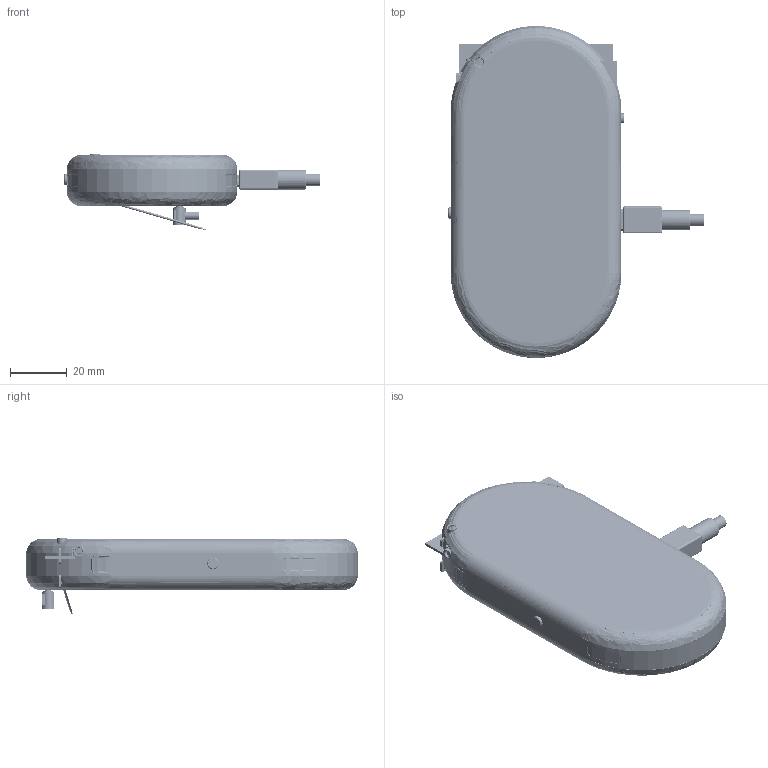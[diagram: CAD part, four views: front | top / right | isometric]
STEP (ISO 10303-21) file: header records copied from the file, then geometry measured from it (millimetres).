
FILE_DESCRIPTION((''),'2;1');
FILE_NAME('GTA02-MSK1_ASM','2008-06-30T',('GRA'),(''),'PRO/ENGINEER BY PARAMETRIC TECHNOLOGY CORPORATION, 2006170','PRO/ENGINEER BY PARAMETRIC TECHNOLOGY CORPORATION, 2006170','');
FILE_SCHEMA(('CONFIG_CONTROL_DESIGN'));
Length unit declared in the file: millimetre
Products named in the file (90): CT0GPS-A-MPM1_PRT; LCM-28-SLIM-TOPPOLY_PRT; RTC-ML414R-F9A_PRT; SHIELDING-RF_PRT; BATTERY-1200MAH-WELLDONE_PRT; ANTENNA_PCB_COVER_ANY_PRT; _V_L_ANY_PRT; PATCH_DA15_ANY_PRT; GBSA-100A_ANY_ASM; _GBSA-100A_PRT; GBSA-100A_ASM; GPS-ANT-EXT-CONN_PRT; ANTENNA_PCB_ANY_PRT; GPS-ANTENNA-CIRO-15X15_ASM; CURV_PRT; ID-GTC-FRONT-PRE_PRT; ID-GTC-REAR-PRE_PRT; ID-GTC-MIDDLE-PRE_PRT; ID-GTC-STACKING_PRT; ID-GTC-LENS-PRE_PRT; ID-GTC-SPEAKER-DECO_PRT; ID-GTC-SD-COV_PRT; ID-GTC-USB-COV_PRT; BLACK_PRT; ID-GTC-FRONT-RING_PRT; ID-GTC-REAR-RING_PRT; ID-GTC-GPS-PRELIMINARY_ASM; MIC-D4-SMD-AAC_PRT; FPC-39P-HRS_PRT; RECEIVER-8X2-PHILIPS_PRT; SW-TACT_PRT; SPEAKER-16D-PSS_PRT; _2IN1_HINGE_ASM_PRT; SIM-MICROSD-ACON_ASM; VIBRATOR_2113TOP0_PRT; BATT-CONN-OCTEK-03JAX_PRT; PLUG-MINI-USB_PRT; GPS-ANT-EXT-MMCX-PLUG_PRT; GPS-ANT-EXT-PLUG-S_PRT; GPS-ANT-EXT-25109_PRT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
Assembly tree (108 placements, depth 6):
  GTA02-MSK1_ASM
    CT0GPS-A-MPM1_PRT
    LCM-28-SLIM-TOPPOLY_PRT
    RTC-ML414R-F9A_PRT
    SHIELDING-RF_PRT
    BATTERY-1200MAH-WELLDONE_PRT
    GPS-ANTENNA-CIRO-15X15_ASM
      GBSA-100A_ASM
        GBSA-100A_ANY_ASM
          ANTENNA_PCB_COVER_ANY_PRT
          _V_L_ANY_PRT
          PATCH_DA15_ANY_PRT
        _GBSA-100A_PRT
      GPS-ANT-EXT-CONN_PRT
      ANTENNA_PCB_ANY_PRT
    CURV_PRT
    ID-GTC-GPS-PRELIMINARY_ASM
      ID-GTC-FRONT-PRE_PRT
      ID-GTC-REAR-PRE_PRT
      ID-GTC-MIDDLE-PRE_PRT
      ID-GTC-STACKING_PRT
      ID-GTC-LENS-PRE_PRT
      ID-GTC-SPEAKER-DECO_PRT
      ID-GTC-SD-COV_PRT
      ID-GTC-USB-COV_PRT
      BLACK_PRT
      ID-GTC-FRONT-RING_PRT
      ID-GTC-REAR-RING_PRT
    MIC-D4-SMD-AAC_PRT
    FPC-39P-HRS_PRT  x2
    RECEIVER-8X2-PHILIPS_PRT
    SW-TACT_PRT  x2
    SPEAKER-16D-PSS_PRT  x2
    SIM-MICROSD-ACON_ASM
      _2IN1_HINGE_ASM_PRT
    VIBRATOR_2113TOP0_PRT
    BATT-CONN-OCTEK-03JAX_PRT
    PLUG-MINI-USB_PRT
    GPS-ANT-EXT-MMCX-PLUG_PRT
    GPS-ANT-EXT-PLUG-S_PRT
    GPS-ANT-EXT-25109_PRT
    GSM-ANT-BOTTOM_PRT
    PHONEJACK-TG286D_PRT
    MINIUSM-2UBMB01-SINGATRON-A_PRT
    GPS-ANT-CONN_PRT
    SPEAKER-AAC_PRT  x2
    GTC01-A-MCS01-RF_ASM
      GTC01-A-MCS01-RF-FRAME_PRT
      GTC01-A-MCS02-RF-COVER_PRT
    MM8430-2600B_PRT
    POGO-SPEAKER-NUCONN-P06_ASM  x2
      P06_ASM
        BTC-024_ANY_ASM
          POGO_PIN__W___ANY_ASM  x2
            PAD__W___ANY_PRT
            SPRING__W___ANY_PRT
            SOLDER__W___ANY_PRT
            PIN__W___ANY_PRT
          HOUSING__W___ANY_PRT
        _P06_PRT
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Bounding box: 89.8 x 116.7 x 26.81 mm (x, y, z)
Volume: 151819.4 mm3; surface area: 212080.7 mm2
Topology: 179 solids, 265 shells, 16554 faces, 45227 edges, 29125 vertices
Faces by surface type: plane 11668, cylinder 3300, bspline 633, sphere 315, torus 276, cone 263, extrusion 99
Entity records: 539603 total; most frequent: CARTESIAN_POINT 161876, ORIENTED_EDGE 80223, DIRECTION 73774, EDGE_CURVE 40597, VECTOR 30916, LINE 30817, VERTEX_POINT 26429, AXIS2_PLACEMENT_3D 21429
